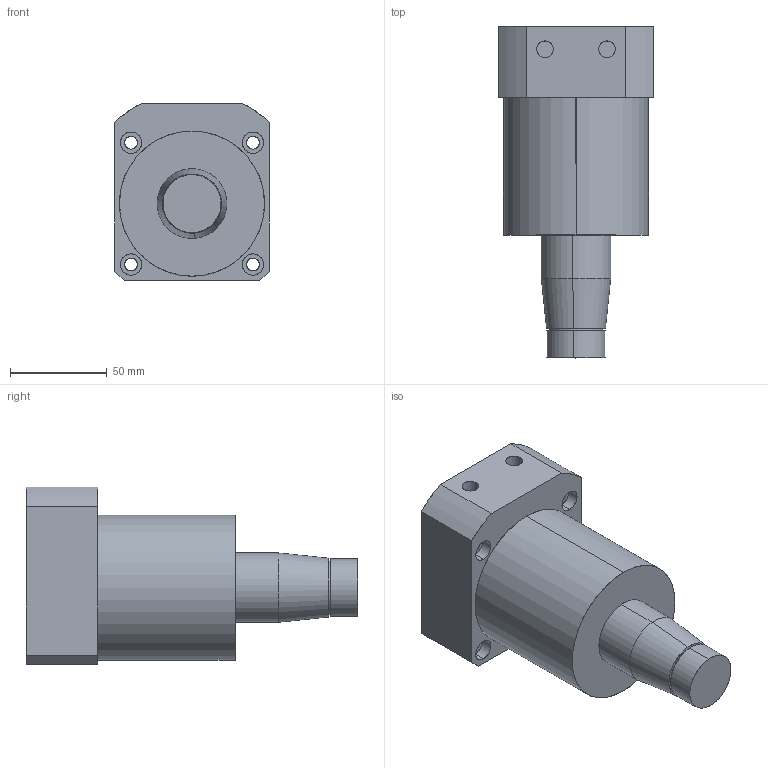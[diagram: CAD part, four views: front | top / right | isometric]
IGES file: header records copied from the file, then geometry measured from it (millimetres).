
Start section: SolidWorks IGES file using analytic representation for surfaces
Global section: file name: E:\karthik\CLASYS\Pneumatic Swing cylinders\Bottom cyl 0312\0312-0751\pneu 75.IGS; native system: SolidWorks 2010; preprocessor: SolidWorks 2010; author: karthik; date: 130914.165044; units: millimetre
Bounding box: 80 x 171.5 x 92 mm (x, y, z)
Surface area: 56164.2 mm2 (no closed solid volume)
Topology: 0 solids, 0 shells, 65 faces, 1508 edges, 1508 vertices
Faces by surface type: revolution 44, bspline 21
